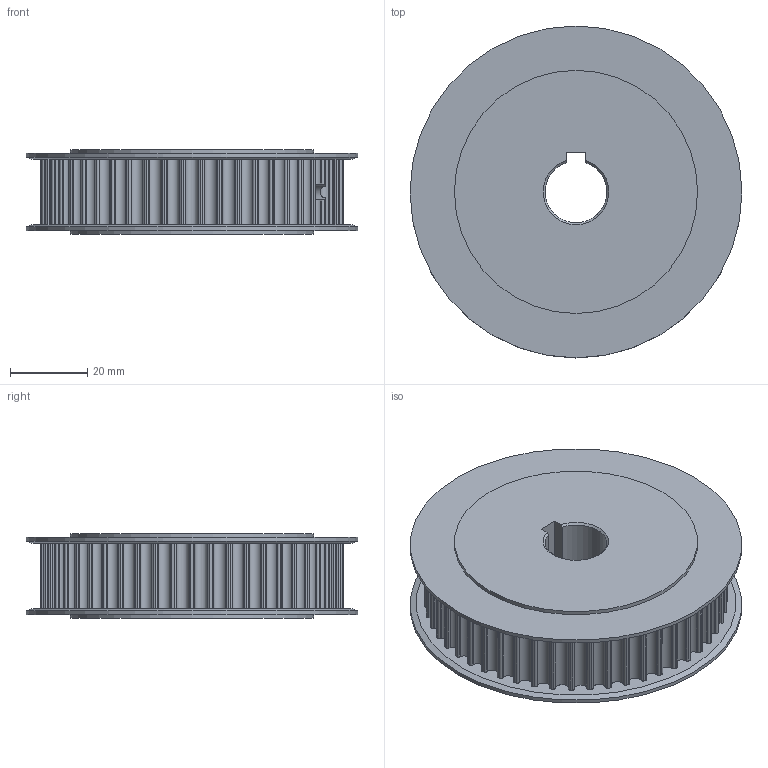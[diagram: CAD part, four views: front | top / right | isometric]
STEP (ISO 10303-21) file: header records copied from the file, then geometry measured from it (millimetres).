
FILE_DESCRIPTION(('STEP AP214'), '1');
FILE_NAME('BLA 50 5M-15 A N16 - 崹魤', '', ('UNSPECIFIED'), ('UNSPECIFIED'), 'ASCON STEP Converter 1.3', 'ASCON Math Kernel', '');
FILE_SCHEMA(('AUTOMOTIVE_DESIGN { 1 0 10303 214 3 1 1}'));
Length unit declared in the file: millimetre
Products named in the file (1): BLA-50-5M-15-A-N16
Bounding box: 86 x 86 x 22 mm (x, y, z)
Volume: 94657.6 mm3; surface area: 22980.2 mm2
Topology: 1 solids, 1 shells, 328 faces, 970 edges, 646 vertices
Faces by surface type: cylinder 211, plane 113, cone 4
Full cylindrical faces by diameter (mm): 4.134 x2, 63 x2, 86 x2
Entity records: 14488 total; most frequent: CARTESIAN_POINT 2719, DIRECTION 2008, ORIENTED_EDGE 1924, EDGE_CURVE 962, AXIS2_PLACEMENT_3D 744, VERTEX_POINT 646, LINE 520, VECTOR 520
